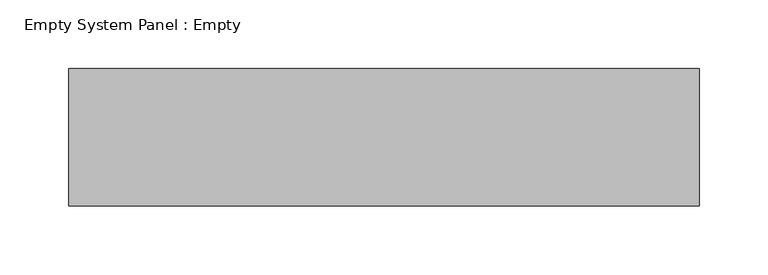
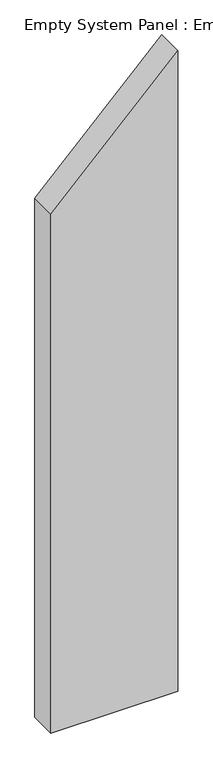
"""IFC4 building model written with IfcOpenShell, lengths in millimetres: plate geometry, Empty System Panel : Empty."""

from ifc_helpers import new_model, si_unit, frame, origin, place, context, project, spatial, polyline, outline, extrude, source, transform, mapped, element, save


def empty_system_panel_empty_69a84613(model_context):
    return source(origin(), model_context, "Body", "SweptSolid", [
        extrude(outline(polyline([(0.0, -229.6046705), (0.0, 229.6046705), (2446.8614304, 229.6046705), (1982.5147213, -229.6046705), (0.0, -229.6046705)])), frame((0.0, -50.0, 0.0), z_axis=(0.0, 1.0, 0.0), x_axis=(0.0, 0.0, 1.0)), (0.0, 0.0, 1.0), 100.0),
    ])


if __name__ == "__main__":
    model = new_model("IFC4")
    model_context = context("Model", 3, world=origin())
    ifc_project = project(units=[si_unit("LENGTHUNIT", "METRE", prefix="MILLI")], contexts=[model_context])
    site = spatial("IfcSite", under=ifc_project)
    building = spatial("IfcBuilding", under=site)
    placement = place(None, origin())
    empty_system_panel_empty_shape = empty_system_panel_empty_69a84613(model_context)
    element("IfcPlate", 1, ObjectType="Empty System Panel : Empty", at=placement, inside=building, context=model_context, shape_type="MappedRepresentation", body=[
        mapped(empty_system_panel_empty_shape, transform((0.0, 0.0, 0.0), x_axis=(1.0, 0.0, 0.0), y_axis=(0.0, 1.0, 0.0), z_axis=(0.0, 0.0, 1.0))),
    ])
    save(model, "model.ifc")
